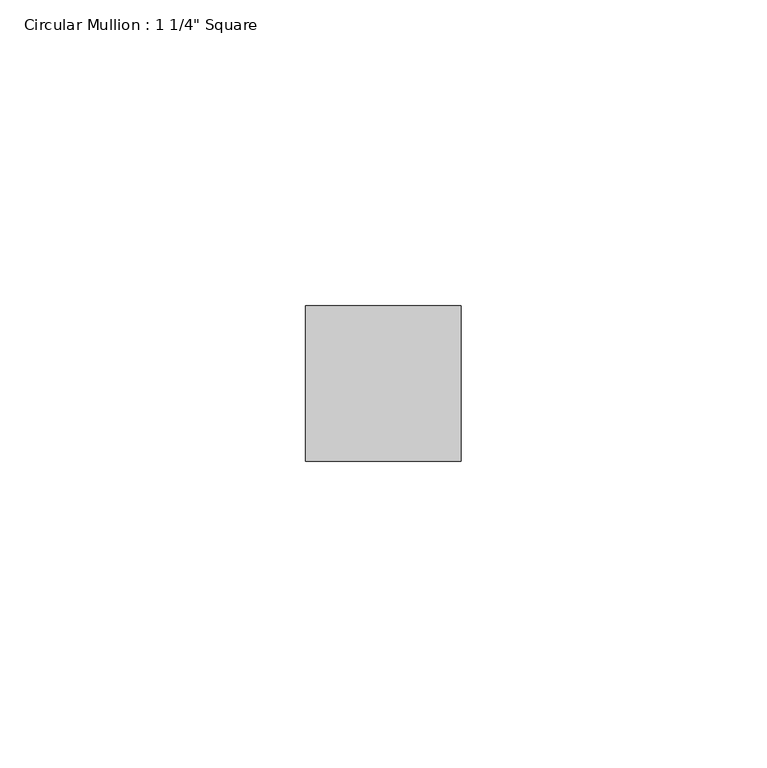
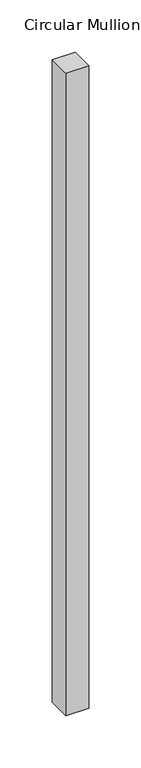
"""IFC4 building model written with IfcOpenShell, lengths in millimetres: member geometry."""

from ifc_helpers import new_model, si_unit, frame, origin, place, context, project, spatial, polyline, outline, extrude, source, transform, mapped, element, save


def member_12606fcf(model_context):
    return source(origin(), model_context, "Body", "SweptSolid", [
        extrude(outline(polyline([(12.7, 12.7), (12.7, -12.7), (-12.7, -12.7), (-12.7, 12.7), (12.7, 12.7)])), frame((0.0, 0.0, -749.3), z_axis=(0.0, 0.0, 1.0), x_axis=(1.0, 0.0, 0.0)), (0.0, 0.0, 1.0), 749.3),
    ])


if __name__ == "__main__":
    model = new_model("IFC4")
    model_context = context("Model", 3, world=origin())
    ifc_project = project(units=[si_unit("LENGTHUNIT", "METRE", prefix="MILLI")], contexts=[model_context])
    site = spatial("IfcSite", under=ifc_project)
    building = spatial("IfcBuilding", under=site)
    placement = place(None, origin())
    member_shape = member_12606fcf(model_context)
    element("IfcMember", 1, ObjectType="Circular Mullion : 1 1/4\" Square", at=placement, inside=building, context=model_context, shape_type="MappedRepresentation", body=[
        mapped(member_shape, transform((0.0, 0.0, 0.0), x_axis=(1.0, 0.0, 0.0), y_axis=(0.0, 1.0, 0.0), z_axis=(0.0, 0.0, 1.0))),
    ])
    save(model, "model.ifc")
